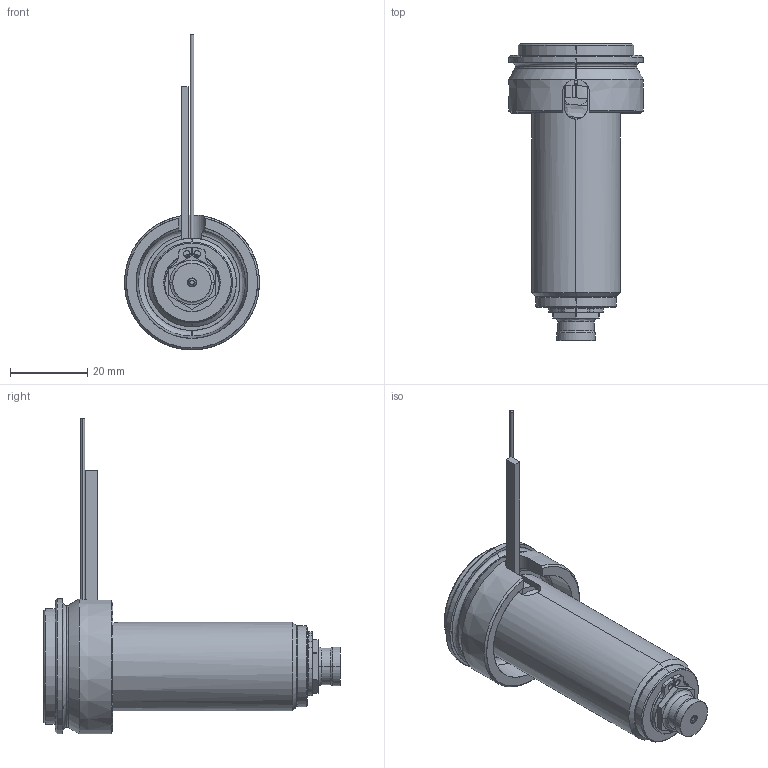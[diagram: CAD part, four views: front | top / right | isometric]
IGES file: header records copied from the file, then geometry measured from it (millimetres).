
Start section: SolidWorks IGES file using analytic representation for surfaces
Global section: file name: C:\Documents and Settings\ws-20\Desktop\TEM\UGEP3151-M-A-0 [Øf-1.10 P-0 ØC-7.0].IGS; native system: SolidWorks 2012; preprocessor: SolidWorks 2012; author: ws-20; date: 120404.081741; units: millimetre
Bounding box: 35 x 77 x 81.9 mm (x, y, z)
Surface area: 17299.3 mm2 (no closed solid volume)
Topology: 0 solids, 0 shells, 126 faces, 1806 edges, 1806 vertices
Faces by surface type: revolution 77, bspline 49
